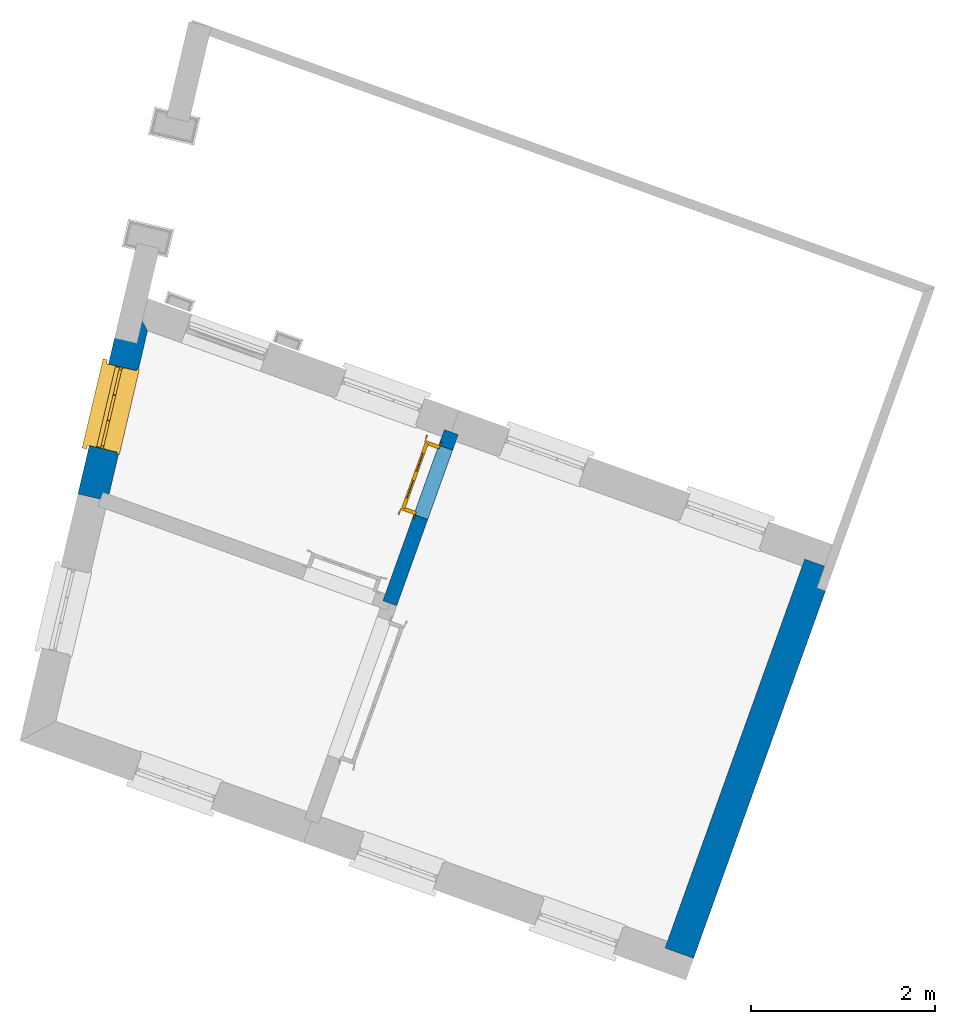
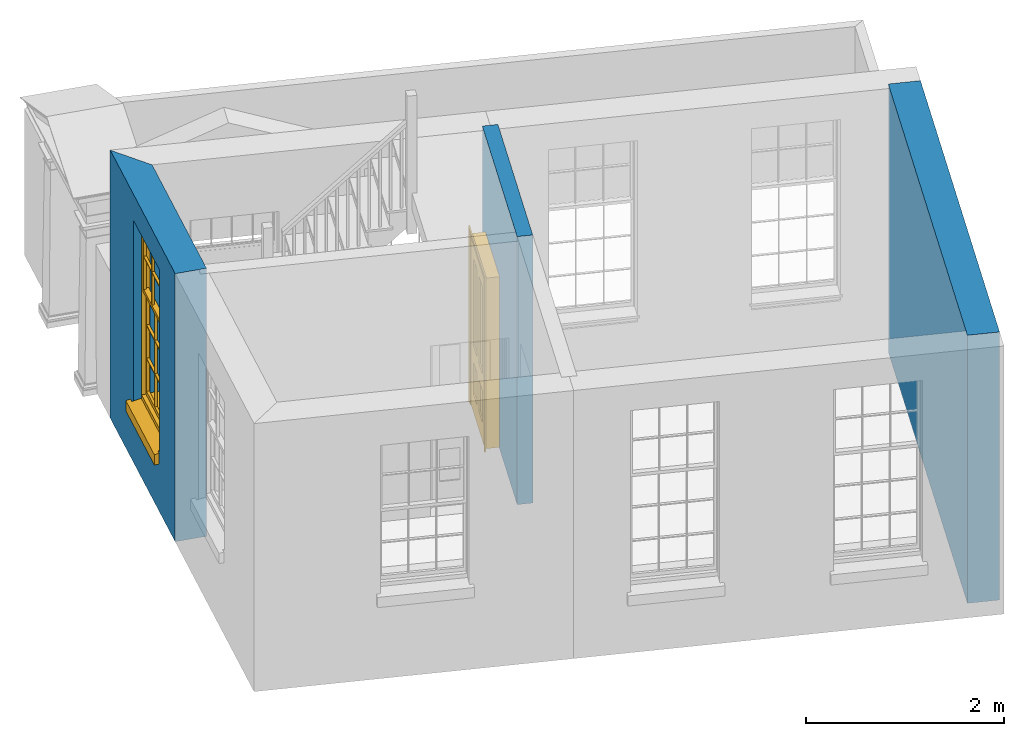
# One storey, part 3 of 6: 3 walls, 1 door, 1 window, 2 openings.
"""IFC4 building model written with IfcOpenShell, lengths in metres."""

from ifc_helpers import new_model, si_unit, frame, origin, origin_with_axes, place, context, subcontext, project, spatial, polyline, outline, extrude, faceted_brep, source, transform, mapped, material, layer, layer_set, layer_usage, type_object, type_shapes, element, fill, save


model = new_model("IFC4")

# Units and contexts
model_context = context("Model", 3, world=origin_with_axes())
body_context = subcontext(model_context, "Body", "Model", "MODEL_VIEW")
ifc_project = project(units=[si_unit("PLANEANGLEUNIT", "RADIAN"), si_unit("MASSUNIT", "GRAM", prefix="KILO"), si_unit("FORCEUNIT", "NEWTON", prefix="KILO"), si_unit("LENGTHUNIT", "METRE"), si_unit("AREAUNIT", "SQUARE_METRE"), si_unit("VOLUMEUNIT", "CUBIC_METRE")], contexts=[model_context, model_context])

# Sites, building, storey
site_1_placement = place(None, origin_with_axes())
site_1 = spatial("IfcSite", under=ifc_project, at=site_1_placement, Name="Tamar")
site_2_placement = place(site_1_placement, origin_with_axes())
site_2 = spatial("IfcSite", under=site_1, at=site_2_placement, Name="Site plot-22", CompositionType="ELEMENT")
building_placement = place(None, origin_with_axes())
building = spatial("IfcBuilding", under=site_2, at=building_placement, Name="Building plot-22", CompositionType="ELEMENT")
storey_placement = place(None, frame((0.0, 0.0, 24.5), z_axis=(0.0, 0.0, 1.0), x_axis=(1.0, 0.0, 0.0)))
storey = spatial("IfcBuildingStorey", under=building, at=storey_placement, Name="plot-22 0", CompositionType="ELEMENT", Elevation=24.5)

# Wall, opening, window
ifc_material_1 = material(Name="Masonry")
ifc_layer_1 = layer(ifc_material_1, 0.33, ventilated=False)
ifc_layer_set_1 = layer_set([ifc_layer_1], Name="exterior_0.08_0.25")
ifc_layer_usage_1 = layer_usage(ifc_layer_set_1, "AXIS2", "POSITIVE", -0.25)
wall_type_1 = type_object("IfcWallType", Name="exterior_0.08_0.25", PredefinedType="SOLIDWALL", material=ifc_layer_set_1)
wall_1_placement = place(storey_placement, frame((251.072337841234, 276.230310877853, 0.0), z_axis=(0.0, 0.0, 1.0), x_axis=(-0.228654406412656, -0.973507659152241, 0.0)))
wall_1 = element("IfcWall", 1, at=wall_1_placement, inside=storey, type_object=wall_type_1, material=ifc_layer_usage_1, Name="exterior", context=body_context, shape_type="SweptSolid", body=[
    extrude(outline(polyline([(0.0897067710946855, 0.0800000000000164), (-0.280333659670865, -0.250000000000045), (1.98834659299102, -0.250000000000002), (1.98834659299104, 0.0799999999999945), (0.0897067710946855, 0.0800000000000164)])), origin_with_axes(), (0.0, 0.0, 1.0), 3.3),
])
opening_1_placement = place(wall_1_placement, frame((0.539173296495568, 0.0, 0.75)))
opening_1 = element("IfcOpeningElement", 2, at=opening_1_placement, cuts=wall_1, Name="My Opening", ObjectType="Opening", context=body_context, shape_type="SweptSolid", body=[
    extrude(outline(polyline([(0.0, -0.269999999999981), (0.909999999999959, -0.270000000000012), (0.909999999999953, 1.09999999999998), (-5.77315972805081e-15, 1.10000000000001), (0.0, -0.269999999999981)])), origin_with_axes(), (0.0, 0.0, 1.0), 2.23),
])
window_type = type_object("IfcWindowType", Name="sash_big_taller", PartitioningType="DOUBLE_PANEL_HORIZONTAL", PredefinedType="NOTDEFINED")
shared_shape_1 = source(origin(), body_context, "Body", "Brep", [
    faceted_brep([(0.033125, 0.145, 1.385209), (0.01, 0.145, 1.385209), (0.033125, 0.145, 1.786042), (0.876875, 0.145, 1.385209), (0.876875, 0.145, 1.786042), (0.9, 0.145, 1.385209), (0.876875, 0.145, 1.796042), (0.876875, 0.145, 2.196875), (0.9, 0.145, 2.22), (0.033125, 0.145, 2.196875), (0.033125, 0.145, 1.796042), (0.01, 0.145, 2.22), (0.876875, 0.115, 1.786042), (0.876875, 0.115, 1.385209), (0.9, 0.115, 1.347084), (0.033125, 0.115, 2.196875), (0.01, 0.115, 2.22), (0.033125, 0.115, 1.796042), (0.01, 0.115, 1.347084), (0.033125, 0.115, 1.385209), (0.033125, 0.115, 1.786042), (0.876875, 0.115, 2.196875), (0.876875, 0.115, 1.796042), (0.9, 0.115, 2.22), (0.033125, 0.145, 1.347084), (0.01, 0.145, 1.347084), (0.033125, 0.145, 0.94625), (0.876875, 0.145, 1.347084), (0.876875, 0.145, 0.94625), (0.9, 0.145, 1.347084), (0.876875, 0.145, 0.52625), (0.876875, 0.145, 0.125417), (0.9, 0.145, 0.077167), (0.033125, 0.145, 0.125417), (0.033125, 0.145, 0.52625), (0.01, 0.145, 0.077167), (-0.0425, 0.0, 0.01), (-0.0425, -0.05, 0.001667), (0.0, 0.0, 0.01), (0.9525, 0.0, 0.01), (0.91, 0.0, 0.01), (0.9525, -0.05, 0.001667), (-0.02, 0.33, 0.077167), (0.0, 0.33, 0.077167), (-0.02, 0.36, 0.077167), (0.0, 0.19, 0.077167), (0.01, 0.19, 0.077167), (0.91, 0.19, 0.077167), (0.91, 0.33, 0.077167), (0.9, 0.19, 0.077167), (0.93, 0.33, 0.077167), (0.93, 0.36, 0.077167), (0.01, 0.175, 1.385209), (0.9, 0.175, 1.385209), (0.876875, 0.175, 0.125417), (0.876875, 0.175, 0.52625), (0.9, 0.175, 0.077167), (0.876875, 0.175, 0.94625), (0.876875, 0.175, 1.347084), (0.033125, 0.175, 0.125417), (0.01, 0.175, 0.077167), (0.033125, 0.175, 0.52625), (0.033125, 0.175, 1.347084), (0.033125, 0.175, 0.94625), (-0.02, 0.33, 0.052167), (-0.02, 0.36, 0.052167), (0.93, 0.36, 0.052167), (0.93, 0.33, 0.052167), (0.91, 0.33, 0.052167), (0.0, 0.33, 0.052167), (0.91, 0.1, 0.026667), (0.0, 0.1, 0.026667), (-0.0425, -0.05, -0.123333), (0.9525, -0.05, -0.123333), (-0.0425, 0.0, -0.123333), (0.9525, 0.0, -0.123333), (0.01, 0.19, 2.22), (0.9, 0.19, 2.22), (0.0, 0.19, 2.23), (0.91, 0.19, 2.23), (0.01, 0.1, 0.077167), (0.9, 0.1, 0.077167), (0.592292, 0.145, 0.125417), (0.592292, 0.175, 0.125417), (0.317708, 0.175, 0.125417), (0.317708, 0.145, 0.125417), (0.592292, 0.145, 0.53625), (0.317708, 0.145, 0.53625), (0.317708, 0.145, 0.52625), (0.592292, 0.145, 0.52625), (0.592292, 0.175, 0.53625), (0.317708, 0.175, 0.53625), (0.592292, 0.115, 1.796042), (0.592292, 0.145, 1.796042), (0.317708, 0.145, 1.796042), (0.317708, 0.115, 1.796042), (0.317708, 0.115, 1.786042), (0.592292, 0.115, 1.786042), (0.317708, 0.145, 1.786042), (0.592292, 0.145, 1.786042), (0.602292, 0.115, 1.786042), (0.592292, 0.115, 1.385209), (0.602292, 0.115, 1.385209), (0.602292, 0.145, 1.385209), (0.592292, 0.145, 1.385209), (0.602292, 0.145, 1.786042), (0.876875, 0.145, 0.53625), (0.876875, 0.175, 0.53625), (0.602292, 0.175, 0.53625), (0.602292, 0.145, 0.53625), (0.317708, 0.175, 0.52625), (0.307708, 0.175, 0.125417), (0.307708, 0.175, 0.52625), (0.602292, 0.175, 0.52625), (0.602292, 0.175, 0.125417), (0.592292, 0.175, 0.52625), (0.307708, 0.175, 0.53625), (0.033125, 0.175, 0.53625), (0.317708, 0.175, 1.347084), (0.317708, 0.175, 0.94625), (0.307708, 0.175, 0.94625), (0.307708, 0.175, 1.347084), (0.602292, 0.175, 1.347084), (0.602292, 0.175, 0.94625), (0.592292, 0.175, 0.94625), (0.592292, 0.175, 1.347084), (0.307708, 0.145, 0.52625), (0.307708, 0.145, 0.125417), (0.307708, 0.145, 0.53625), (0.033125, 0.145, 0.53625), (0.307708, 0.145, 1.347084), (0.307708, 0.145, 0.94625), (0.592292, 0.145, 1.347084), (0.592292, 0.145, 0.94625), (0.317708, 0.145, 0.94625), (0.317708, 0.145, 1.347084), (0.602292, 0.145, 0.94625), (0.602292, 0.145, 1.347084), (0.602292, 0.145, 0.52625), (0.602292, 0.145, 0.125417), (0.307708, 0.115, 1.796042), (0.307708, 0.115, 1.786042), (0.307708, 0.115, 1.385209), (0.317708, 0.115, 1.385209), (0.317708, 0.115, 2.196875), (0.307708, 0.115, 2.196875), (0.602292, 0.115, 2.196875), (0.592292, 0.115, 2.196875), (0.602292, 0.115, 1.796042), (0.602292, 0.145, 1.796042), (0.307708, 0.145, 1.796042), (0.307708, 0.145, 2.196875), (0.317708, 0.145, 2.196875), (0.592292, 0.145, 2.196875), (0.602292, 0.145, 2.196875), (0.307708, 0.145, 1.786042), (0.317708, 0.145, 1.385209), (0.307708, 0.145, 1.385209), (0.876875, 0.175, 0.93625), (0.033125, 0.175, 0.93625), (0.033125, 0.145, 0.93625), (0.876875, 0.145, 0.93625), (0.91, 0.1, 2.23), (0.9, 0.1, 2.22), (0.01, 0.1, 2.22), (0.0, 0.1, 2.23), (0.91, 0.0, 0.0), (0.0, 0.0, 0.0), (0.91, 0.33, 0.0), (0.0, 0.33, 0.0), (0.317708, 0.145, 0.93625), (0.592292, 0.145, 0.93625), (0.317708, 0.175, 0.93625), (0.307708, 0.175, 0.93625), (0.602292, 0.175, 0.93625), (0.592292, 0.175, 0.93625), (0.307708, 0.145, 0.93625), (0.602292, 0.145, 0.93625)], [[[0, 1, 2]], [[3, 4, 5]], [[6, 7, 8]], [[9, 10, 11]], [[12, 13, 14]], [[15, 16, 17]], [[18, 19, 20]], [[21, 22, 23]], [[24, 25, 26]], [[27, 28, 29]], [[30, 31, 32]], [[33, 34, 35]], [[14, 27, 29]], [[25, 24, 18]], [[36, 37, 38]], [[39, 40, 41]], [[42, 43, 44]], [[45, 46, 43]], [[47, 48, 49]], [[50, 51, 48]], [[1, 0, 52]], [[5, 53, 3]], [[54, 55, 56]], [[57, 58, 53]], [[59, 60, 61]], [[62, 63, 52]], [[48, 43, 46, 49]], [[51, 44, 43, 48]], [[64, 42, 44, 65]], [[65, 44, 51, 66]], [[66, 51, 50, 67]], [[65, 66, 68, 69]], [[60, 56, 49, 46]], [[70, 71, 38, 40]], [[37, 41, 40, 38]], [[37, 72, 73, 41]], [[74, 75, 73, 72]], [[8, 11, 76, 77]], [[76, 78, 79, 77]], [[32, 35, 80, 81]], [[81, 80, 71, 70]], [[82, 83, 84, 85]], [[86, 87, 88, 89]], [[86, 90, 91, 87]], [[92, 93, 94, 95]], [[92, 95, 96, 97]], [[96, 98, 99, 97]], [[100, 97, 101, 102]], [[103, 104, 99, 105]], [[97, 99, 104, 101]], [[102, 103, 105, 100]], [[106, 107, 108, 109]], [[110, 84, 111, 112]], [[113, 114, 83, 115]], [[116, 112, 61, 117]], [[90, 115, 110, 91]], [[118, 119, 120, 121]], [[122, 123, 124, 125]], [[113, 108, 107, 55]], [[126, 112, 111, 127]], [[34, 61, 112, 126]], [[89, 115, 83, 82]], [[88, 110, 115, 89]], [[85, 84, 110, 88]], [[128, 116, 117, 129]], [[130, 121, 120, 131]], [[132, 125, 124, 133]], [[134, 119, 118, 135]], [[136, 123, 122, 137]], [[138, 113, 55, 30]], [[139, 114, 113, 138]], [[138, 30, 106, 109]], [[88, 126, 127, 85]], [[138, 89, 82, 139]], [[137, 132, 133, 136]], [[128, 129, 34, 126]], [[135, 130, 131, 134]], [[140, 17, 20, 141]], [[96, 141, 142, 143]], [[144, 145, 140, 95]], [[146, 147, 92, 148]], [[100, 12, 22, 148]], [[149, 6, 4, 105]], [[94, 150, 151, 152]], [[149, 93, 153, 154]], [[99, 98, 94, 93]], [[155, 2, 10, 150]], [[156, 157, 155, 98]], [[141, 155, 157, 142]], [[20, 2, 155, 141]], [[143, 156, 98, 96]], [[140, 150, 10, 17]], [[145, 151, 150, 140]], [[147, 153, 93, 92]], [[95, 94, 152, 144]], [[22, 6, 149, 148]], [[148, 149, 154, 146]], [[100, 105, 4, 12]], [[109, 86, 89, 138]], [[108, 113, 115, 90]], [[91, 110, 112, 116]], [[87, 128, 126, 88]], [[97, 100, 148, 92]], [[141, 96, 95, 140]], [[98, 155, 150, 94]], [[105, 99, 93, 149]], [[143, 101, 104, 156]], [[135, 118, 125, 132]], [[144, 152, 153, 147]], [[127, 111, 59, 33]], [[15, 9, 151, 145]], [[146, 154, 7, 21]], [[31, 54, 114, 139]], [[36, 74, 72, 37]], [[39, 41, 73, 75]], [[18, 14, 101, 143]], [[23, 16, 144, 147]], [[83, 56, 60, 84]], [[52, 53, 125, 118]], [[53, 52, 156, 104]], [[11, 8, 153, 152]], [[14, 18, 135, 132]], [[2, 1, 11, 10]], [[8, 5, 4, 6]], [[57, 53, 56, 158]], [[60, 52, 63, 159]], [[26, 25, 35, 160]], [[32, 29, 28, 161]], [[14, 23, 22, 12]], [[18, 20, 17, 16]], [[19, 0, 2, 20]], [[17, 10, 9, 15]], [[12, 4, 3, 13]], [[21, 7, 6, 22]], [[27, 58, 57, 28]], [[30, 55, 54, 31]], [[33, 59, 61, 34]], [[26, 63, 62, 24]], [[5, 8, 77, 53]], [[76, 11, 1, 52]], [[46, 45, 78, 76]], [[49, 77, 79, 47]], [[70, 162, 163, 81]], [[71, 80, 164, 165]], [[19, 142, 157, 0]], [[102, 13, 3, 103]], [[121, 130, 24, 62]], [[29, 32, 81, 14]], [[80, 35, 25, 18]], [[60, 46, 76, 52]], [[77, 49, 56, 53]], [[23, 14, 81, 163]], [[16, 164, 80, 18]], [[35, 85, 127]], [[127, 33, 35]], [[139, 82, 32]], [[32, 31, 139]], [[32, 82, 85, 35]], [[102, 101, 14]], [[14, 13, 102]], [[18, 143, 142]], [[142, 19, 18]], [[146, 21, 23]], [[23, 147, 146]], [[16, 15, 145]], [[145, 144, 16]], [[11, 152, 151]], [[151, 9, 11]], [[154, 153, 8]], [[8, 7, 154]], [[23, 163, 164, 16]], [[162, 165, 164, 163]], [[52, 118, 121]], [[121, 62, 52]], [[125, 53, 122]], [[58, 122, 53]], [[27, 137, 122, 58]], [[56, 83, 114]], [[114, 54, 56]], [[111, 84, 60]], [[60, 59, 111]], [[137, 27, 14]], [[14, 132, 137]], [[130, 135, 18]], [[18, 24, 130]], [[157, 156, 52]], [[52, 0, 157]], [[103, 3, 53]], [[53, 104, 103]], [[79, 78, 165, 162]], [[78, 45, 71, 165]], [[162, 70, 47, 79]], [[166, 75, 74, 167]], [[68, 66, 67]], [[48, 68, 67, 50]], [[69, 64, 65]], [[42, 64, 69, 43]], [[69, 68, 168, 169]], [[70, 68, 48, 47]], [[166, 168, 68, 70]], [[43, 69, 71, 45]], [[69, 169, 167, 71]], [[168, 166, 167, 169]], [[38, 167, 74, 36]], [[71, 167, 38]], [[39, 75, 166, 40]], [[40, 166, 70]], [[133, 134, 170, 171]], [[133, 124, 119, 134]], [[28, 57, 123, 136]], [[172, 91, 116, 173]], [[174, 108, 90, 175]], [[120, 173, 159, 63]], [[124, 175, 172, 119]], [[174, 123, 57, 158]], [[176, 173, 116, 128]], [[160, 159, 173, 176]], [[171, 175, 90, 86]], [[170, 172, 175, 171]], [[87, 91, 172, 170]], [[131, 120, 63, 26]], [[177, 174, 158, 161]], [[109, 108, 174, 177]], [[177, 161, 28, 136]], [[170, 176, 128, 87]], [[177, 171, 86, 109]], [[131, 26, 160, 176]], [[136, 133, 171, 177]], [[123, 174, 175, 124]], [[119, 172, 173, 120]], [[134, 131, 176, 170]], [[129, 117, 159, 160]], [[161, 158, 107, 106]], [[35, 34, 129]], [[35, 129, 160]], [[32, 106, 30]], [[32, 161, 106]], [[56, 55, 107]], [[56, 107, 158]], [[60, 117, 61]], [[60, 159, 117]]]),
])
type_shapes(window_type, [shared_shape_1])
window_placement = place(storey_placement, frame((250.686206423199, 275.767158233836, 0.75), z_axis=(0.0, 0.0, 1.0), x_axis=(-0.208075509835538, -0.885891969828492, 0.0)))
window = element("IfcWindow", 3, at=window_placement, inside=storey, type_object=window_type, Name="circulation street window", OverallHeight=2.23, OverallWidth=0.91, context=body_context, shape_type="MappedRepresentation", body=[
    mapped(shared_shape_1, transform((0.0, 0.0, 0.0), scale=1.0)),
])
fill(opening_1, window)

# Wall
ifc_material_2 = material(Name="Masonry")
ifc_layer_2 = layer(ifc_material_2, 0.33, ventilated=False)
ifc_layer_set_2 = layer_set([ifc_layer_2], Name="party_0.08_0.25")
ifc_layer_usage_2 = layer_usage(ifc_layer_set_2, "AXIS2", "POSITIVE", -0.25)
wall_type_2 = type_object("IfcWallType", Name="party_0.08_0.25", PredefinedType="SOLIDWALL", material=ifc_layer_set_2)
wall_2_placement = place(storey_placement, frame((256.825968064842, 269.392124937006, 0.0), z_axis=(0.0, 0.0, 1.0), x_axis=(0.338164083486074, 0.941087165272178, 0.0)))
element("IfcWall", 4, at=wall_2_placement, inside=storey, type_object=wall_type_2, material=ifc_layer_usage_2, Name="party", context=body_context, shape_type="SweptSolid", body=[
    extrude(outline(polyline([(1.88783683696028e-15, 0.0799999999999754), (-2.19671078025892e-14, -0.250000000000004), (4.48965793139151, -0.250000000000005), (4.48965793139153, 0.0799999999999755), (1.88783683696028e-15, 0.0799999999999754)])), origin_with_axes(), (0.0, 0.0, 1.0), 3.3),
])

# Wall, opening, door
ifc_material_3 = material(Name="Masonry")
ifc_layer_3 = layer(ifc_material_3, 0.16, ventilated=False)
ifc_layer_set_3 = layer_set([ifc_layer_3], Name="interior_0.08_0.08")
ifc_layer_usage_3 = layer_usage(ifc_layer_set_3, "AXIS2", "POSITIVE", -0.08)
wall_type_3 = type_object("IfcWallType", Name="interior_0.08_0.08", PredefinedType="SOLIDWALL", material=ifc_layer_set_3)
wall_3_placement = place(storey_placement, frame((253.76162339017, 273.164921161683, 0.0), z_axis=(0.0, 0.0, 1.0), x_axis=(0.338164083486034, 0.941087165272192, 0.0)))
wall_3 = element("IfcWall", 5, at=wall_3_placement, inside=storey, type_object=wall_type_3, material=ifc_layer_usage_3, Name="interior", context=body_context, shape_type="SweptSolid", body=[
    extrude(outline(polyline([(-4.38270280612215e-15, 0.0800000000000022), (4.37473641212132e-15, -0.0800000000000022), (1.97537913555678, -0.0800000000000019), (1.97537913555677, 0.0800000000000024), (-4.38270280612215e-15, 0.0800000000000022)])), origin_with_axes(), (0.0, 0.0, 1.0), 3.3),
])
opening_2_placement = place(wall_3_placement, frame((0.995379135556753, 0.0, 0.0199999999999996)))
opening_2 = element("IfcOpeningElement", 6, at=opening_2_placement, cuts=wall_3, Name="My Opening", ObjectType="Opening", context=body_context, shape_type="SweptSolid", body=[
    extrude(outline(polyline([(0.0, -0.10000000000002), (0.799999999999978, -0.100000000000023), (0.800000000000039, 1.09999999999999), (6.0285110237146e-14, 1.1), (0.0, -0.10000000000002)])), origin_with_axes(), (0.0, 0.0, 1.0), 2.1),
])
door_type = type_object("IfcDoorType", Name="door_inside", OperationType="SINGLE_SWING_LEFT", PredefinedType="NOTDEFINED")
shared_shape_2 = source(origin(), body_context, "Body", "Brep", [
    faceted_brep([(0.773, 0.33, 1.895), (0.66, 0.33, 1.895), (0.66, 0.33, 2.073), (0.773, 0.33, 2.073), (0.773, 0.33, 0.82), (0.66, 0.33, 0.82), (0.45, 0.33, 1.895), (0.45, 0.33, 2.073), (0.773, 0.33, 0.62), (0.66, 0.33, 0.62), (0.66, 0.315, 0.82), (0.66, 0.315, 1.895), (0.45, 0.315, 1.895), (0.35, 0.33, 1.895), (0.35, 0.33, 2.073), (0.773, 0.33, 0.225), (0.66, 0.33, 0.225), (0.45, 0.33, 0.62), (0.45, 0.33, 0.82), (0.45, 0.315, 0.82), (0.35, 0.33, 0.82), (0.14, 0.33, 2.073), (0.14, 0.33, 1.895), (0.773, 0.33, 0.0), (0.66, 0.33, 0.0), (0.66, 0.315, 0.225), (0.66, 0.315, 0.62), (0.45, 0.315, 0.62), (0.35, 0.33, 0.62), (0.35, 0.315, 0.82), (0.35, 0.315, 1.895), (0.14, 0.315, 1.895), (0.027, 0.33, 2.073), (0.027, 0.33, 1.895), (0.773, 0.292, 0.0), (0.66, 0.292, 0.0), (0.45, 0.33, 0.0), (0.45, 0.33, 0.225), (0.45, 0.315, 0.225), (0.35, 0.33, 0.225), (0.14, 0.33, 0.82), (0.14, 0.33, 0.62), (0.14, 0.315, 0.82), (0.027, 0.33, 0.82), (0.773, 0.292, 0.225), (0.66, 0.292, 0.225), (0.45, 0.292, 0.0), (0.35, 0.33, 0.0), (0.35, 0.315, 0.225), (0.35, 0.315, 0.62), (0.14, 0.315, 0.62), (0.027, 0.33, 0.62), (0.773, 0.292, 0.62), (0.66, 0.292, 0.62), (0.45, 0.292, 0.225), (0.35, 0.292, 0.0), (0.14, 0.33, 0.225), (0.14, 0.33, 0.0), (0.14, 0.315, 0.225), (0.027, 0.33, 0.225), (0.773, 0.292, 0.82), (0.66, 0.292, 0.82), (0.66, 0.307, 0.62), (0.66, 0.307, 0.225), (0.45, 0.307, 0.225), (0.35, 0.292, 0.225), (0.14, 0.292, 0.0), (0.027, 0.33, 0.0), (0.773, 0.292, 1.895), (0.66, 0.292, 1.895), (0.45, 0.292, 0.62), (0.45, 0.292, 0.82), (0.45, 0.307, 0.62), (0.35, 0.292, 0.62), (0.14, 0.292, 0.225), (0.027, 0.292, 0.0), (0.773, 0.292, 2.073), (0.66, 0.292, 2.073), (0.66, 0.307, 1.895), (0.66, 0.307, 0.82), (0.45, 0.307, 0.82), (0.35, 0.292, 0.82), (0.35, 0.307, 0.62), (0.35, 0.307, 0.225), (0.14, 0.307, 0.225), (0.027, 0.292, 0.225), (0.45, 0.292, 1.895), (0.45, 0.292, 2.073), (0.45, 0.307, 1.895), (0.35, 0.292, 1.895), (0.14, 0.292, 0.82), (0.14, 0.292, 0.62), (0.14, 0.307, 0.62), (0.027, 0.292, 0.62), (0.35, 0.292, 2.073), (0.35, 0.307, 1.895), (0.35, 0.307, 0.82), (0.14, 0.307, 0.82), (0.027, 0.292, 0.82), (0.14, 0.292, 2.073), (0.14, 0.292, 1.895), (0.14, 0.307, 1.895), (0.027, 0.292, 1.895), (0.027, 0.292, 2.073), (0.02, 0.335, 0.0), (0.005, 0.34, 0.0), (0.005, 0.34, 2.095), (0.02, 0.335, 2.08), (0.02, 0.33, 0.0), (0.0, 0.335, 0.0), (0.0, 0.335, 2.1), (0.795, 0.34, 2.095), (0.78, 0.335, 2.08), (0.02, 0.33, 2.08), (0.0, 0.33, 0.0), (-0.032, 0.345, 0.0), (-0.032, 0.345, 2.132), (0.8, 0.335, 2.1), (0.795, 0.34, 0.0), (0.78, 0.335, 0.0), (0.78, 0.33, 2.08), (0.04, 0.29, 0.0), (0.025, 0.29, 0.0), (0.025, 0.29, 2.075), (0.04, 0.29, 2.06), (-0.04, 0.34, 0.0), (-0.04, 0.34, 2.14), (0.832, 0.345, 2.132), (0.8, 0.335, 0.0), (0.78, 0.33, 0.0), (0.8, 0.33, 0.0), (0.86, 0.33, 0.0), (0.86, 0.33, 2.16), (0.8, 0.33, 2.1), (-0.06, 0.33, 2.16), (0.0, 0.33, 2.1), (-0.06, 0.33, 0.0), (-0.04, 0.345, 0.0), (-0.04, 0.345, 2.14), (0.84, 0.34, 2.14), (0.832, 0.345, 0.0), (0.84, 0.34, 0.0), (0.86, 0.345, 0.0), (0.86, 0.345, 2.16), (-0.06, 0.345, 2.16), (-0.06, 0.345, 0.0), (0.84, 0.345, 0.0), (0.84, 0.345, 2.14), (-0.025, 0.155, 0.0), (-0.025, 0.16, 0.0), (-0.025, 0.16, 2.125), (-0.025, 0.155, 2.125), (-0.017, 0.155, 0.0), (-0.017, 0.155, 2.117), (0.825, 0.16, 2.125), (0.825, 0.155, 2.125), (0.825, 0.155, 0.0), (0.845, 0.155, 0.0), (-0.045, 0.155, 2.145), (-0.045, 0.155, 0.0), (0.845, 0.155, 2.145), (0.015, 0.165, 0.0), (0.015, 0.165, 2.085), (0.817, 0.155, 2.117), (0.825, 0.16, 0.0), (0.845, 0.17, 0.0), (0.845, 0.17, 2.145), (-0.045, 0.17, 2.145), (-0.045, 0.17, 0.0), (0.02, 0.16, 0.0), (0.02, 0.16, 2.08), (0.785, 0.165, 2.085), (0.817, 0.155, 0.0), (0.8, 0.17, 0.0), (0.8, 0.17, 2.1), (0.0, 0.17, 2.1), (0.0, 0.17, 0.0), (0.035, 0.165, 0.0), (0.035, 0.165, 2.065), (0.78, 0.16, 2.08), (0.785, 0.165, 0.0), (0.775, 0.29, 2.075), (0.76, 0.29, 2.06), (0.035, 0.17, 2.065), (0.035, 0.17, 0.0), (0.765, 0.165, 2.065), (0.78, 0.16, 0.0), (0.765, 0.17, 0.0), (0.765, 0.17, 2.065), (0.765, 0.165, 0.0), (0.04, 0.17, 2.06), (0.04, 0.17, 0.0), (0.76, 0.17, 2.06), (0.76, 0.17, 0.0), (0.76, 0.29, 0.0), (0.775, 0.29, 0.0), (0.025, 0.33, 0.0), (0.025, 0.33, 2.075), (0.775, 0.33, 0.0), (0.775, 0.33, 2.075)], [[[0, 1, 2, 3]], [[1, 0, 4, 5]], [[1, 6, 7, 2]], [[8, 9, 5, 4]], [[1, 5, 10, 11]], [[6, 1, 11, 12]], [[6, 13, 14, 7]], [[15, 16, 9, 8]], [[9, 17, 18, 5]], [[5, 18, 19, 10]], [[10, 19, 12, 11]], [[18, 6, 12, 19]], [[18, 20, 13, 6]], [[21, 14, 13, 22]], [[23, 24, 16, 15]], [[9, 16, 25, 26]], [[17, 9, 26, 27]], [[17, 28, 20, 18]], [[13, 20, 29, 30]], [[22, 13, 30, 31]], [[32, 21, 22, 33]], [[34, 35, 24, 23]], [[24, 36, 37, 16]], [[16, 37, 38, 25]], [[25, 38, 27, 26]], [[37, 17, 27, 38]], [[37, 39, 28, 17]], [[40, 20, 28, 41]], [[20, 40, 42, 29]], [[31, 30, 29, 42]], [[40, 22, 31, 42]], [[33, 22, 40, 43]], [[35, 34, 44, 45]], [[35, 46, 36, 24]], [[36, 47, 39, 37]], [[28, 39, 48, 49]], [[41, 28, 49, 50]], [[43, 40, 41, 51]], [[45, 44, 52, 53]], [[46, 35, 45, 54]], [[46, 55, 47, 36]], [[56, 39, 47, 57]], [[39, 56, 58, 48]], [[50, 49, 48, 58]], [[56, 41, 50, 58]], [[51, 41, 56, 59]], [[53, 52, 60, 61]], [[45, 53, 62, 63]], [[54, 45, 63, 64]], [[55, 46, 54, 65]], [[55, 66, 57, 47]], [[59, 56, 57, 67]], [[61, 60, 68, 69]], [[70, 53, 61, 71]], [[53, 70, 72, 62]], [[72, 64, 63, 62]], [[70, 54, 64, 72]], [[65, 54, 70, 73]], [[65, 74, 66, 55]], [[67, 57, 66, 75]], [[69, 68, 76, 77]], [[61, 69, 78, 79]], [[71, 61, 79, 80]], [[73, 70, 71, 81]], [[65, 73, 82, 83]], [[74, 65, 83, 84]], [[74, 85, 75, 66]], [[86, 69, 77, 87]], [[69, 86, 88, 78]], [[88, 80, 79, 78]], [[86, 71, 80, 88]], [[81, 71, 86, 89]], [[73, 81, 90, 91]], [[73, 91, 92, 82]], [[83, 82, 92, 84]], [[91, 74, 84, 92]], [[91, 93, 85, 74]], [[89, 86, 87, 94]], [[81, 89, 95, 96]], [[90, 81, 96, 97]], [[90, 98, 93, 91]], [[94, 99, 100, 89]], [[89, 100, 101, 95]], [[101, 97, 96, 95]], [[100, 90, 97, 101]], [[100, 102, 98, 90]], [[99, 103, 102, 100]], [[32, 103, 99, 21]], [[102, 103, 32, 33]], [[98, 102, 33, 43]], [[21, 99, 94, 14]], [[94, 87, 7, 14]], [[7, 87, 77, 2]], [[76, 3, 2, 77]], [[43, 51, 93, 98]], [[51, 59, 85, 93]], [[67, 75, 85, 59]], [[34, 23, 15, 44]], [[44, 15, 8, 52]], [[52, 8, 4, 60]], [[0, 68, 60, 4]], [[0, 3, 76, 68]], [[104, 105, 106, 107]], [[104, 108, 109, 105]], [[105, 109, 110, 106]], [[107, 106, 111, 112]], [[107, 113, 108, 104]], [[114, 109, 108]], [[109, 115, 116, 110]], [[106, 110, 117, 111]], [[112, 111, 118, 119]], [[113, 107, 112, 120]], [[121, 122, 123, 124]], [[115, 109, 114, 125]], [[115, 125, 126, 116]], [[110, 116, 127, 117]], [[111, 117, 128, 118]], [[118, 128, 129, 119]], [[120, 112, 119, 129]], [[130, 129, 128]], [[130, 131, 132, 133]], [[133, 132, 134, 135]], [[135, 134, 136, 114]], [[136, 125, 114]], [[125, 137, 138, 126]], [[116, 126, 139, 127]], [[117, 127, 140, 128]], [[141, 130, 128, 140]], [[131, 130, 141]], [[131, 142, 143, 132]], [[132, 143, 144, 134]], [[134, 144, 145, 136]], [[137, 125, 136, 145]], [[143, 142, 146]], [[143, 146, 147]], [[137, 145, 144]], [[143, 147, 138]], [[138, 137, 144]], [[143, 138, 144]], [[126, 138, 147, 139]], [[127, 139, 141, 140]], [[142, 131, 141, 146]], [[139, 147, 146, 141]], [[148, 149, 150, 151]], [[149, 152, 153, 150]], [[151, 150, 154, 155]], [[155, 156, 157]], [[158, 159, 148]], [[158, 148, 151]], [[155, 157, 160]], [[158, 151, 155]], [[155, 160, 158]], [[152, 161, 162, 153]], [[150, 153, 163, 154]], [[155, 154, 164, 156]], [[156, 164, 165, 157]], [[157, 165, 166, 160]], [[160, 166, 167, 158]], [[158, 167, 168, 159]], [[161, 169, 170, 162]], [[153, 162, 171, 163]], [[154, 163, 172, 164]], [[165, 164, 173]], [[165, 173, 174, 166]], [[166, 174, 175, 167]], [[167, 175, 176, 168]], [[169, 177, 178, 170]], [[162, 170, 179, 171]], [[163, 171, 180, 172]], [[172, 180, 173, 164]], [[124, 123, 181, 182]], [[183, 178, 177, 184]], [[170, 178, 185, 179]], [[171, 179, 186, 180]], [[187, 173, 180]], [[185, 188, 187, 189]], [[188, 185, 178, 183]], [[179, 185, 189, 186]], [[189, 187, 180, 186]], [[190, 183, 184, 191]], [[192, 188, 183, 190]], [[191, 184, 122, 121]], [[124, 190, 191, 121]], [[193, 187, 188, 192]], [[182, 192, 190, 124]], [[184, 176, 122]], [[194, 195, 187, 193]], [[192, 182, 194, 193]], [[161, 176, 184]], [[114, 108, 122, 176]], [[173, 187, 195]], [[152, 149, 176, 161]], [[169, 161, 184, 177]], [[196, 122, 108]], [[176, 175, 135, 114]], [[173, 195, 129, 130]], [[176, 149, 168]], [[123, 122, 196, 197]], [[196, 108, 113, 197]], [[175, 174, 133, 135]], [[198, 129, 195]], [[133, 174, 173, 130]], [[159, 168, 149, 148]], [[181, 123, 197, 199]], [[197, 113, 120, 199]], [[199, 120, 129, 198]], [[195, 181, 199, 198]], [[195, 194, 182, 181]]]),
])
type_shapes(door_type, [shared_shape_2])
door_placement = place(storey_placement, frame((254.192333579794, 274.067843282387, 0.0199999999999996), z_axis=(0.0, 0.0, 1.0), x_axis=(0.270531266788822, 0.752869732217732, 0.0)))
door = element("IfcDoor", 7, at=door_placement, inside=storey, type_object=door_type, Name="living inside door", OverallHeight=2.1, OverallWidth=0.8, context=body_context, shape_type="MappedRepresentation", body=[
    mapped(shared_shape_2, transform((0.0, 0.0, 0.0), scale=1.0)),
])
fill(opening_2, door)

save(model, "model.ifc")
